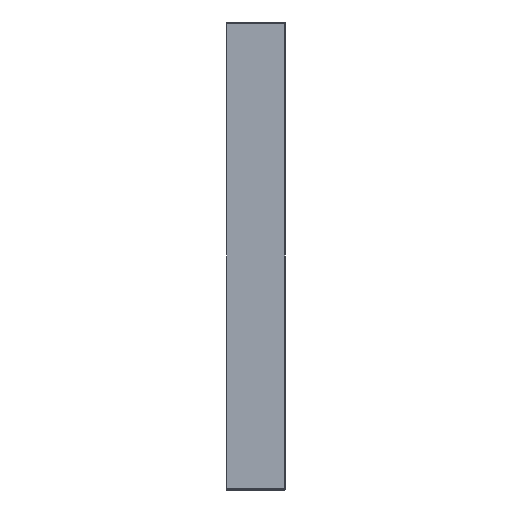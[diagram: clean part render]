
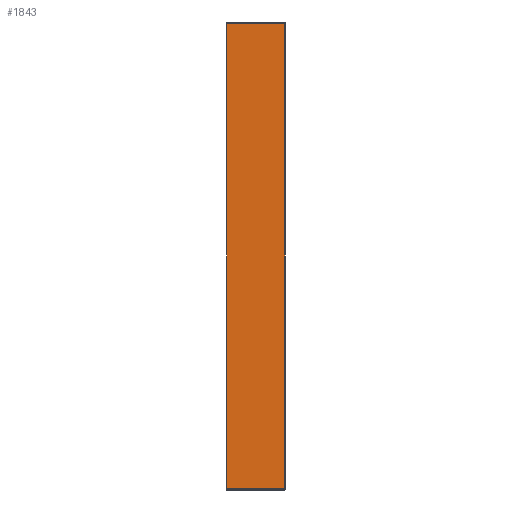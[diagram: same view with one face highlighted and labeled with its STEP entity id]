
A CAD part, left-side view. The second image highlights one B-rep face of the part: STEP entity #1843.
In plain terms, the highlighted planar face has unit normal (-1, 0, 0).
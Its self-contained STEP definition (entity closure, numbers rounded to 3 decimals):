
#214 = DIRECTION ( 'NONE',  ( 0., 0., -1. ) ) ;
#779 = VECTOR ( 'NONE', #214, 1000. ) ;
#909 = VERTEX_POINT ( 'NONE', #8748 ) ;
#1301 = EDGE_CURVE ( 'NONE', #6891, #6250, #3465, .T. ) ;
#1655 = VECTOR ( 'NONE', #2942, 1000. ) ;
#1843 = ADVANCED_FACE ( 'NONE', ( #7516 ), #2774, .F. ) ;
#1917 = DIRECTION ( 'NONE',  ( 0., 0., 1. ) ) ;
#2104 = EDGE_LOOP ( 'NONE', ( #8660, #6822, #5544, #3793 ) ) ;
#2466 = DIRECTION ( 'NONE',  ( 0., -1., 0. ) ) ;
#2729 = CARTESIAN_POINT ( 'NONE',  ( -21.25, 0., 590. ) ) ;
#2774 = PLANE ( 'NONE',  #5223 ) ;
#2942 = DIRECTION ( 'NONE',  ( 0., -1., 0. ) ) ;
#3465 = LINE ( 'NONE', #2729, #1655 ) ;
#3793 = ORIENTED_EDGE ( 'NONE', *, *, #6648, .T. ) ;
#4172 = CARTESIAN_POINT ( 'NONE',  ( -21.25, 0., 590. ) ) ;
#4411 = VECTOR ( 'NONE', #2466, 1000. ) ;
#4837 = DIRECTION ( 'NONE',  ( 1., 0., 0. ) ) ;
#4882 = CARTESIAN_POINT ( 'NONE',  ( -21.25, 73., 590. ) ) ;
#5223 = AXIS2_PLACEMENT_3D ( 'NONE', #4172, #4837, #7559 ) ;
#5391 = VECTOR ( 'NONE', #1917, 1000. ) ;
#5544 = ORIENTED_EDGE ( 'NONE', *, *, #1301, .F. ) ;
#5599 = LINE ( 'NONE', #8713, #5391 ) ;
#6218 = LINE ( 'NONE', #8400, #779 ) ;
#6219 = EDGE_CURVE ( 'NONE', #909, #6250, #5599, .T. ) ;
#6250 = VERTEX_POINT ( 'NONE', #8244 ) ;
#6648 = EDGE_CURVE ( 'NONE', #6891, #8808, #6218, .T. ) ;
#6822 = ORIENTED_EDGE ( 'NONE', *, *, #6219, .T. ) ;
#6891 = VERTEX_POINT ( 'NONE', #4882 ) ;
#7131 = CARTESIAN_POINT ( 'NONE',  ( -21.25, 73., 0. ) ) ;
#7251 = CARTESIAN_POINT ( 'NONE',  ( -21.25, 0., 0. ) ) ;
#7516 = FACE_OUTER_BOUND ( 'NONE', #2104, .T. ) ;
#7525 = EDGE_CURVE ( 'NONE', #8808, #909, #8020, .T. ) ;
#7559 = DIRECTION ( 'NONE',  ( 0., 0., -1. ) ) ;
#8020 = LINE ( 'NONE', #7251, #4411 ) ;
#8244 = CARTESIAN_POINT ( 'NONE',  ( -21.25, -0.75, 590. ) ) ;
#8400 = CARTESIAN_POINT ( 'NONE',  ( -21.25, 73., 590. ) ) ;
#8660 = ORIENTED_EDGE ( 'NONE', *, *, #7525, .T. ) ;
#8713 = CARTESIAN_POINT ( 'NONE',  ( -21.25, -0.75, 590. ) ) ;
#8748 = CARTESIAN_POINT ( 'NONE',  ( -21.25, -0.75, 0. ) ) ;
#8808 = VERTEX_POINT ( 'NONE', #7131 ) ;
